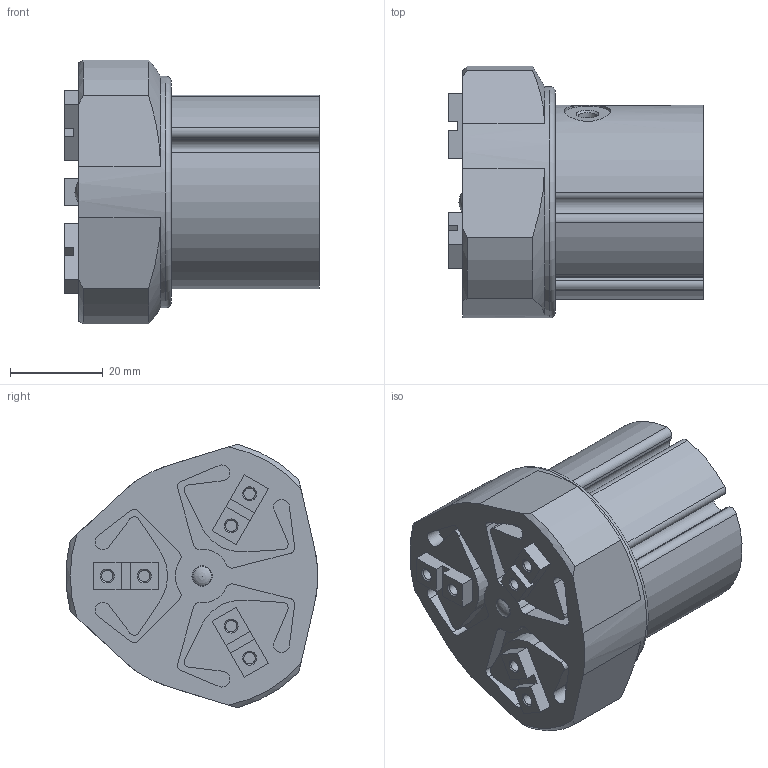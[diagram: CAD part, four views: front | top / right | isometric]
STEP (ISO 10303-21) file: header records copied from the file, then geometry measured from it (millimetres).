
FILE_DESCRIPTION(/* description */ ('STEP AP214'),/* implementation_level */ '2;1');
FILE_NAME(/* name */ 'HFCQ25_CL',/* time_stamp */ '2024-10-02T10:55:56+02:00',/* author */ ('License CC BY-ND 4.0'),/* organization */ ('CADENAS'),/* preprocessor_version */ 'ST-DEVELOPER v19.3',/* originating_system */ 'PARTsolutions',/* authorisation */ ' ');
FILE_SCHEMA (('AP203_CONFIGURATION_CONTROLLED_3D_DESIGN_OF_MECHANICAL_PARTS_AND_ASSEMBLIES_MIM_LF { 1 0 10303 203 3 1 4 }','TECHNICAL_DATA_PACKAGING','AUTOMOTIVE_DESIGN {1 0 10303 214 3 1 1}'));
Length unit declared in the file: millimetre
Products named in the file (5): HFCQ25_CL; HFCQ25(CL)_d; HFCQ25(CL)_body; HFCQ25(CL)_arm; HFCQ25(CL)_cover
Assembly tree (6 placements, depth 2):
  HFCQ25_CL
    HFCQ25(CL)_d
    HFCQ25(CL)_body
    HFCQ25(CL)_arm  x3
    HFCQ25(CL)_cover
Bounding box: 55 x 54.39 x 56.99 mm (x, y, z)
Volume: 107797.8 mm3; surface area: 28447.5 mm2
Topology: 5 solids, 5 shells, 235 faces, 591 edges, 391 vertices
Faces by surface type: plane 143, cylinder 64, cone 26, torus 1, sphere 1
Full cylindrical faces by diameter (mm): 2.459 x6, 3 x1, 3.242 x3, 4 x2, 4.134 x2, 6 x3, 10 x2, 26 x1, 42.5 x1, 47 x1, 50 x1
Entity records: 5966 total; most frequent: CARTESIAN_POINT 1112, DIRECTION 998, ORIENTED_EDGE 936, EDGE_CURVE 468, AXIS2_PLACEMENT_3D 360, VERTEX_POINT 327, LINE 278, VECTOR 278
